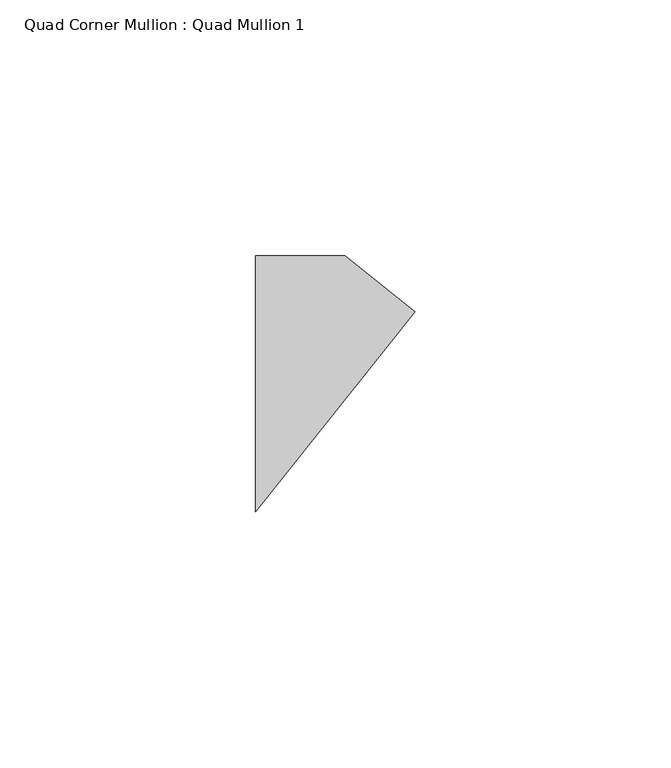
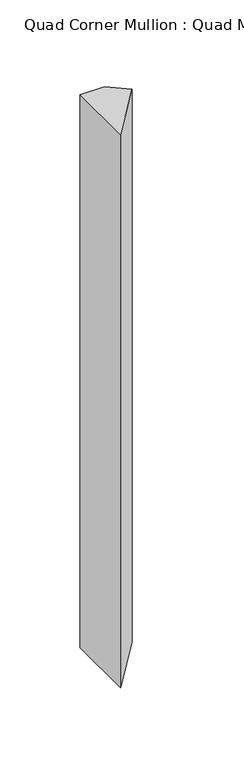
"""IFC4 building model written with IfcOpenShell, lengths in millimetres: member geometry, Quad Corner Mullion : Quad Mullion 1."""

from ifc_helpers import new_model, si_unit, frame, origin, place, context, project, spatial, polyline, outline, extrude, source, transform, mapped, element, save


def quad_corner_mullion_quad_mullion_1_a4c313df(model_context):
    return source(origin(), model_context, "Body", "SweptSolid", [
        extrude(outline(polyline([(22.4169637, 14.1035695), (-8.7424787, -25.0), (-8.7424787, 25.0), (8.7424787, 25.0), (22.4169637, 14.1035695)])), frame((0.0, 0.0, -420.0), z_axis=(0.0, 0.0, 1.0), x_axis=(1.0, 0.0, 0.0)), (0.0, 0.0, 1.0), 420.0),
    ])


if __name__ == "__main__":
    model = new_model("IFC4")
    model_context = context("Model", 3, world=origin())
    ifc_project = project(units=[si_unit("LENGTHUNIT", "METRE", prefix="MILLI")], contexts=[model_context])
    site = spatial("IfcSite", under=ifc_project)
    building = spatial("IfcBuilding", under=site)
    placement = place(None, origin())
    quad_corner_mullion_quad_mullion_1_shape = quad_corner_mullion_quad_mullion_1_a4c313df(model_context)
    element("IfcMember", 1, ObjectType="Quad Corner Mullion : Quad Mullion 1", at=placement, inside=building, context=model_context, shape_type="MappedRepresentation", body=[
        mapped(quad_corner_mullion_quad_mullion_1_shape, transform((0.0, 0.0, 0.0), x_axis=(1.0, 0.0, 0.0), y_axis=(0.0, 1.0, 0.0), z_axis=(0.0, 0.0, 1.0))),
    ])
    save(model, "model.ifc")
